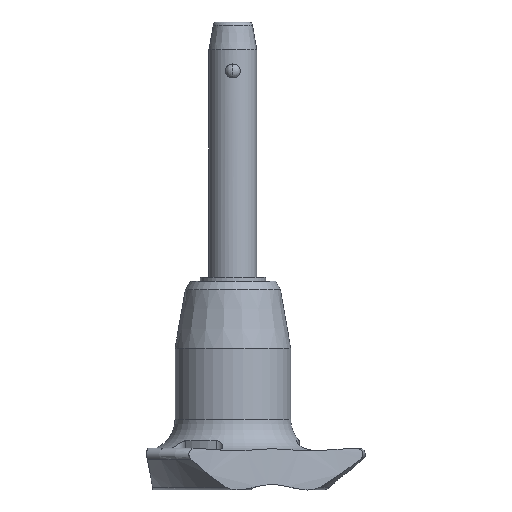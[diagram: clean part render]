
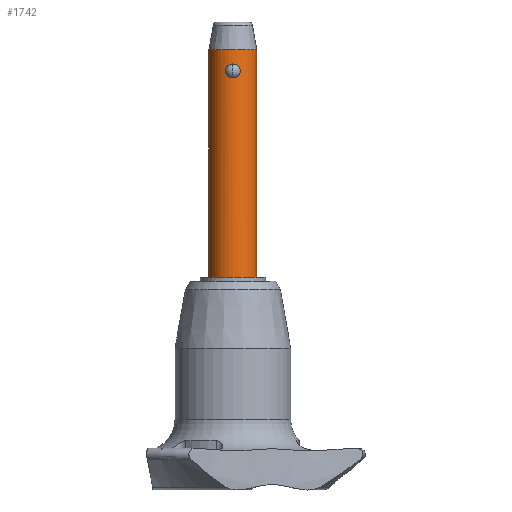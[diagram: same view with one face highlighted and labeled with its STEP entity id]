
A CAD part, front view. The second image highlights one B-rep face of the part: STEP entity #1742.
In plain terms, the highlighted cylindrical face has radius 3 mm (diameter 6 mm), a partial arc.
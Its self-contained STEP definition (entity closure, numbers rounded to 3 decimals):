
#30 = CARTESIAN_POINT ( 'NONE',  ( -0.12, -3., 1.732 ) ) ;
#51 = VERTEX_POINT ( 'NONE', #1468 ) ;
#72 = CARTESIAN_POINT ( 'NONE',  ( -3., 0., -25. ) ) ;
#99 = CARTESIAN_POINT ( 'NONE',  ( 0.812, -2.888, 1.317 ) ) ;
#129 = CARTESIAN_POINT ( 'NONE',  ( -0.937, -2.85, 0.749 ) ) ;
#132 = VERTEX_POINT ( 'NONE', #72 ) ;
#151 = CARTESIAN_POINT ( 'NONE',  ( -0.937, -2.85, 0.986 ) ) ;
#182 = EDGE_CURVE ( 'NONE', #262, #132, #1947, .T. ) ;
#193 = AXIS2_PLACEMENT_3D ( 'NONE', #1534, #1744, #920 ) ;
#216 = EDGE_CURVE ( 'NONE', #1487, #51, #1587, .T. ) ;
#258 = CARTESIAN_POINT ( 'NONE',  ( -0.461, -2.967, 1.63 ) ) ;
#262 = VERTEX_POINT ( 'NONE', #989 ) ;
#269 = CARTESIAN_POINT ( 'NONE',  ( 0.811, -2.889, 0.412 ) ) ;
#352 = EDGE_CURVE ( 'NONE', #262, #381, #2084, .T. ) ;
#381 = VERTEX_POINT ( 'NONE', #1882 ) ;
#480 = CARTESIAN_POINT ( 'NONE',  ( 0.564, -2.948, 1.57 ) ) ;
#494 = CARTESIAN_POINT ( 'NONE',  ( 0.91, -2.859, 0.626 ) ) ;
#543 = CARTESIAN_POINT ( 'NONE',  ( -0.74, -2.909, 0.318 ) ) ;
#627 = CARTESIAN_POINT ( 'NONE',  ( 0., 0., -25. ) ) ;
#628 = CARTESIAN_POINT ( 'NONE',  ( 3., 0., -25. ) ) ;
#687 = CARTESIAN_POINT ( 'NONE',  ( 0., -3., 1.732 ) ) ;
#711 = ORIENTED_EDGE ( 'NONE', *, *, #216, .F. ) ;
#725 = EDGE_CURVE ( 'NONE', #51, #1487, #996, .T. ) ;
#761 = CARTESIAN_POINT ( 'NONE',  ( 0.937, -2.85, 0.744 ) ) ;
#790 = CARTESIAN_POINT ( 'NONE',  ( -0.812, -2.889, 0.414 ) ) ;
#793 = EDGE_CURVE ( 'NONE', #132, #2554, #1404, .T. ) ;
#799 = DIRECTION ( 'NONE',  ( 0., 0., 1. ) ) ;
#800 = DIRECTION ( 'NONE',  ( 0., 0., 1. ) ) ;
#920 = DIRECTION ( 'NONE',  ( 1., 0., 0. ) ) ;
#962 = CARTESIAN_POINT ( 'NONE',  ( 0., -3., 0. ) ) ;
#985 = VECTOR ( 'NONE', #1891, 1000. ) ;
#989 = CARTESIAN_POINT ( 'NONE',  ( 3., 0., -25. ) ) ;
#996 = B_SPLINE_CURVE_WITH_KNOTS ( 'NONE', 3,
 ( #962, #2166, #1155, #2389, #2630, #1805, #269, #494, #761, #1771, #1546, #99, #1591, #480, #1105, #2374, #1565, #1944 ),
 .UNSPECIFIED., .F., .F.,
 ( 4, 2, 2, 2, 2, 2, 2, 2, 4 ),
 ( 0.003, 0.003, 0.004, 0.004, 0.004, 0.005, 0.005, 0.005, 0.006 ),
 .UNSPECIFIED. ) ;
#1105 = CARTESIAN_POINT ( 'NONE',  ( 0.461, -2.966, 1.63 ) ) ;
#1155 = CARTESIAN_POINT ( 'NONE',  ( 0.238, -2.993, 0.021 ) ) ;
#1157 = CARTESIAN_POINT ( 'NONE',  ( -0.564, -2.948, 0.162 ) ) ;
#1174 = CARTESIAN_POINT ( 'NONE',  ( -0.563, -2.948, 1.57 ) ) ;
#1404 = LINE ( 'NONE', #1439, #1729 ) ;
#1415 = FACE_OUTER_BOUND ( 'NONE', #1698, .T. ) ;
#1439 = CARTESIAN_POINT ( 'NONE',  ( -3., 0., -25. ) ) ;
#1468 = CARTESIAN_POINT ( 'NONE',  ( 0., -3., 0. ) ) ;
#1487 = VERTEX_POINT ( 'NONE', #1663 ) ;
#1534 = CARTESIAN_POINT ( 'NONE',  ( 0., 0., -25. ) ) ;
#1546 = CARTESIAN_POINT ( 'NONE',  ( 0.911, -2.859, 1.103 ) ) ;
#1565 = CARTESIAN_POINT ( 'NONE',  ( 0.12, -3., 1.732 ) ) ;
#1568 = CARTESIAN_POINT ( 'NONE',  ( -0.911, -2.859, 0.63 ) ) ;
#1579 = ORIENTED_EDGE ( 'NONE', *, *, #182, .F. ) ;
#1582 = CARTESIAN_POINT ( 'NONE',  ( -0.91, -2.859, 1.105 ) ) ;
#1587 = B_SPLINE_CURVE_WITH_KNOTS ( 'NONE', 3,
 ( #687, #30, #2139, #258, #1174, #1594, #2229, #1582, #151, #129, #1568, #790, #543, #1157, #1793, #2213, #2448, #2200 ),
 .UNSPECIFIED., .F., .F.,
 ( 4, 2, 2, 2, 2, 2, 2, 2, 4 ),
 ( 0., 0., 0.001, 0.001, 0.001, 0.002, 0.002, 0.002, 0.003 ),
 .UNSPECIFIED. ) ;
#1591 = CARTESIAN_POINT ( 'NONE',  ( 0.74, -2.909, 1.414 ) ) ;
#1594 = CARTESIAN_POINT ( 'NONE',  ( -0.739, -2.909, 1.414 ) ) ;
#1616 = CARTESIAN_POINT ( 'NONE',  ( 0., 0., 3.5 ) ) ;
#1655 = AXIS2_PLACEMENT_3D ( 'NONE', #1616, #2015, #2426 ) ;
#1663 = CARTESIAN_POINT ( 'NONE',  ( 0., -3., 1.732 ) ) ;
#1690 = AXIS2_PLACEMENT_3D ( 'NONE', #627, #800, #2682 ) ;
#1698 = EDGE_LOOP ( 'NONE', ( #2425, #1579, #2234, #2497 ) ) ;
#1729 = VECTOR ( 'NONE', #799, 1000. ) ;
#1742 = ADVANCED_FACE ( 'NONE', ( #1415, #1843 ), #2300, .T. ) ;
#1744 = DIRECTION ( 'NONE',  ( 0., 0., -1. ) ) ;
#1771 = CARTESIAN_POINT ( 'NONE',  ( 0.937, -2.85, 0.985 ) ) ;
#1793 = CARTESIAN_POINT ( 'NONE',  ( -0.46, -2.967, 0.101 ) ) ;
#1805 = CARTESIAN_POINT ( 'NONE',  ( 0.738, -2.909, 0.317 ) ) ;
#1834 = CIRCLE ( 'NONE', #1655, 3. ) ;
#1843 = FACE_BOUND ( 'NONE', #2253, .T. ) ;
#1882 = CARTESIAN_POINT ( 'NONE',  ( 3., 0., 3.5 ) ) ;
#1891 = DIRECTION ( 'NONE',  ( 0., 0., 1. ) ) ;
#1944 = CARTESIAN_POINT ( 'NONE',  ( 0., -3., 1.732 ) ) ;
#1947 = CIRCLE ( 'NONE', #193, 3. ) ;
#2015 = DIRECTION ( 'NONE',  ( 0., 0., -1. ) ) ;
#2025 = ORIENTED_EDGE ( 'NONE', *, *, #725, .F. ) ;
#2084 = LINE ( 'NONE', #628, #985 ) ;
#2139 = CARTESIAN_POINT ( 'NONE',  ( -0.238, -2.993, 1.712 ) ) ;
#2166 = CARTESIAN_POINT ( 'NONE',  ( 0.118, -3., 0. ) ) ;
#2200 = CARTESIAN_POINT ( 'NONE',  ( 0., -3., 0. ) ) ;
#2213 = CARTESIAN_POINT ( 'NONE',  ( -0.238, -2.993, 0.021 ) ) ;
#2229 = CARTESIAN_POINT ( 'NONE',  ( -0.811, -2.889, 1.319 ) ) ;
#2234 = ORIENTED_EDGE ( 'NONE', *, *, #352, .T. ) ;
#2253 = EDGE_LOOP ( 'NONE', ( #711, #2025 ) ) ;
#2300 = CYLINDRICAL_SURFACE ( 'NONE', #1690, 3. ) ;
#2374 = CARTESIAN_POINT ( 'NONE',  ( 0.238, -2.993, 1.712 ) ) ;
#2382 = EDGE_CURVE ( 'NONE', #381, #2554, #1834, .T. ) ;
#2389 = CARTESIAN_POINT ( 'NONE',  ( 0.459, -2.967, 0.101 ) ) ;
#2425 = ORIENTED_EDGE ( 'NONE', *, *, #793, .F. ) ;
#2426 = DIRECTION ( 'NONE',  ( 1., 0., 0. ) ) ;
#2448 = CARTESIAN_POINT ( 'NONE',  ( -0.118, -3., 0. ) ) ;
#2494 = CARTESIAN_POINT ( 'NONE',  ( -3., 0., 3.5 ) ) ;
#2497 = ORIENTED_EDGE ( 'NONE', *, *, #2382, .T. ) ;
#2554 = VERTEX_POINT ( 'NONE', #2494 ) ;
#2630 = CARTESIAN_POINT ( 'NONE',  ( 0.563, -2.948, 0.162 ) ) ;
#2682 = DIRECTION ( 'NONE',  ( 1., 0., 0. ) ) ;
